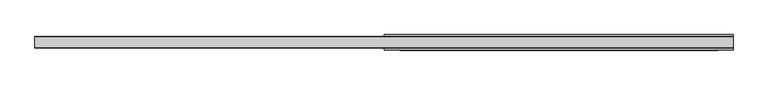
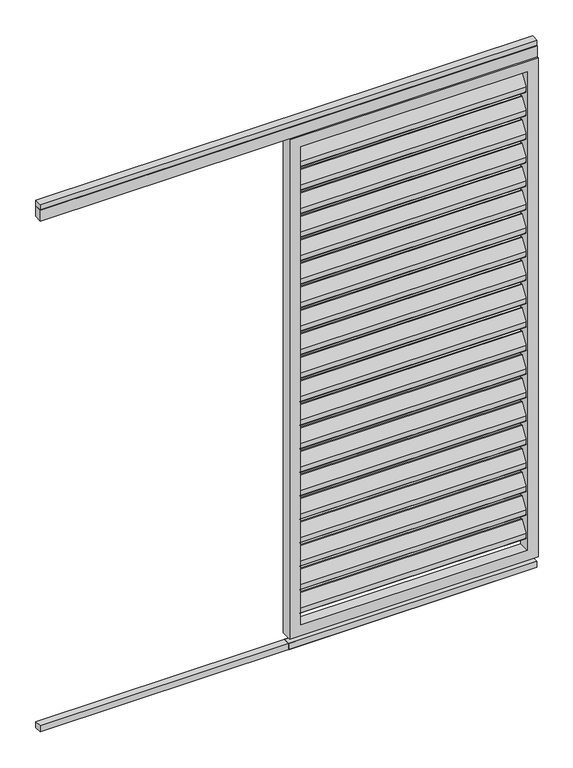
"""IFC4 building model written with IfcOpenShell, lengths in millimetres: proxy geometry, Renson_Algarve_Loggia_Paro_Aluminium : Renson_Algarve_Loggia_Paro_Aluminium."""

from ifc_helpers import new_model, si_unit, point, frame, frame_2d, origin, origin_with_axes, place, context, project, spatial, polyline, circle_curve, trimmed, segment, composite_curve, outline, extrude, source, transform, mapped, element, save


def generic_models_e63a34c5(model_context):
    return source(origin(), model_context, "Body", "SweptSolid", [
        extrude(outline(composite_curve([segment(trimmed(circle_curve(frame_2d((12.6675921, 1892.6587719)), 3.0), [point((10.1515804, 1894.292689))], [point((15.6675921, 1892.6587719))], False, "CARTESIAN"), True, "CONTINUOUS"), segment(polyline([(15.6675921, 1892.6587719), (15.6675921, 1874.2979873)]), True, "CONTINUOUS"), segment(trimmed(circle_curve(frame_2d((12.6675921, 1874.2979873)), 3.0), [point((15.6675921, 1874.2979873))], [point((15.1836038, 1872.6640702))], False, "CARTESIAN"), True, "CONTINUOUS"), segment(polyline([(15.1836038, 1872.6640702), (-8.8163962, 1835.707311)]), True, "CONTINUOUS"), segment(trimmed(circle_curve(frame_2d((-11.3324079, 1837.3412281)), 3.0), [point((-8.8163962, 1835.707311))], [point((-14.3324079, 1837.3412281))], False, "CARTESIAN"), True, "CONTINUOUS"), segment(polyline([(-14.3324079, 1837.3412281), (-14.3324079, 1856.5906532), (10.1515804, 1894.292689)]), True, "CONTINUOUS")], self_intersect=False)), frame((-410.0, 0.0, 0.0), z_axis=(1.0, 0.0, 0.0), x_axis=(0.0, 1.0, 0.0)), (0.0, 0.0, 1.0), 820.0),
        extrude(outline(composite_curve([segment(trimmed(circle_curve(frame_2d((12.6675921, 1802.6587719)), 3.0), [point((10.1515804, 1804.292689))], [point((15.6675921, 1802.6587719))], False, "CARTESIAN"), True, "CONTINUOUS"), segment(polyline([(15.6675921, 1802.6587719), (15.6675921, 1784.2979873)]), True, "CONTINUOUS"), segment(trimmed(circle_curve(frame_2d((12.6675921, 1784.2979873)), 3.0), [point((15.6675921, 1784.2979873))], [point((15.1836038, 1782.6640702))], False, "CARTESIAN"), True, "CONTINUOUS"), segment(polyline([(15.1836038, 1782.6640702), (-8.8163962, 1745.707311)]), True, "CONTINUOUS"), segment(trimmed(circle_curve(frame_2d((-11.3324079, 1747.3412281)), 3.0), [point((-8.8163962, 1745.707311))], [point((-14.3324079, 1747.3412281))], False, "CARTESIAN"), True, "CONTINUOUS"), segment(polyline([(-14.3324079, 1747.3412281), (-14.3324079, 1766.5906532), (10.1515804, 1804.292689)]), True, "CONTINUOUS")], self_intersect=False)), frame((-410.0, 0.0, 0.0), z_axis=(1.0, 0.0, 0.0), x_axis=(0.0, 1.0, 0.0)), (0.0, 0.0, 1.0), 820.0),
        extrude(outline(composite_curve([segment(trimmed(circle_curve(frame_2d((12.6675921, 1712.6587719)), 3.0), [point((10.1515804, 1714.292689))], [point((15.6675921, 1712.6587719))], False, "CARTESIAN"), True, "CONTINUOUS"), segment(polyline([(15.6675921, 1712.6587719), (15.6675921, 1694.2979873)]), True, "CONTINUOUS"), segment(trimmed(circle_curve(frame_2d((12.6675921, 1694.2979873)), 3.0), [point((15.6675921, 1694.2979873))], [point((15.1836038, 1692.6640702))], False, "CARTESIAN"), True, "CONTINUOUS"), segment(polyline([(15.1836038, 1692.6640702), (-8.8163962, 1655.707311)]), True, "CONTINUOUS"), segment(trimmed(circle_curve(frame_2d((-11.3324079, 1657.3412281)), 3.0), [point((-8.8163962, 1655.707311))], [point((-14.3324079, 1657.3412281))], False, "CARTESIAN"), True, "CONTINUOUS"), segment(polyline([(-14.3324079, 1657.3412281), (-14.3324079, 1676.5906532), (10.1515804, 1714.292689)]), True, "CONTINUOUS")], self_intersect=False)), frame((-410.0, 0.0, 0.0), z_axis=(1.0, 0.0, 0.0), x_axis=(0.0, 1.0, 0.0)), (0.0, 0.0, 1.0), 820.0),
        extrude(outline(composite_curve([segment(trimmed(circle_curve(frame_2d((12.6675921, 1622.6587719)), 3.0), [point((10.1515804, 1624.292689))], [point((15.6675921, 1622.6587719))], False, "CARTESIAN"), True, "CONTINUOUS"), segment(polyline([(15.6675921, 1622.6587719), (15.6675921, 1604.2979873)]), True, "CONTINUOUS"), segment(trimmed(circle_curve(frame_2d((12.6675921, 1604.2979873)), 3.0), [point((15.6675921, 1604.2979873))], [point((15.1836038, 1602.6640702))], False, "CARTESIAN"), True, "CONTINUOUS"), segment(polyline([(15.1836038, 1602.6640702), (-8.8163962, 1565.707311)]), True, "CONTINUOUS"), segment(trimmed(circle_curve(frame_2d((-11.3324079, 1567.3412281)), 3.0), [point((-8.8163962, 1565.707311))], [point((-14.3324079, 1567.3412281))], False, "CARTESIAN"), True, "CONTINUOUS"), segment(polyline([(-14.3324079, 1567.3412281), (-14.3324079, 1586.5906532), (10.1515804, 1624.292689)]), True, "CONTINUOUS")], self_intersect=False)), frame((-410.0, 0.0, 0.0), z_axis=(1.0, 0.0, 0.0), x_axis=(0.0, 1.0, 0.0)), (0.0, 0.0, 1.0), 820.0),
        extrude(outline(composite_curve([segment(trimmed(circle_curve(frame_2d((12.6675921, 1532.6587719)), 3.0), [point((10.1515804, 1534.292689))], [point((15.6675921, 1532.6587719))], False, "CARTESIAN"), True, "CONTINUOUS"), segment(polyline([(15.6675921, 1532.6587719), (15.6675921, 1514.2979873)]), True, "CONTINUOUS"), segment(trimmed(circle_curve(frame_2d((12.6675921, 1514.2979873)), 3.0), [point((15.6675921, 1514.2979873))], [point((15.1836038, 1512.6640702))], False, "CARTESIAN"), True, "CONTINUOUS"), segment(polyline([(15.1836038, 1512.6640702), (-8.8163962, 1475.707311)]), True, "CONTINUOUS"), segment(trimmed(circle_curve(frame_2d((-11.3324079, 1477.3412281)), 3.0), [point((-8.8163962, 1475.707311))], [point((-14.3324079, 1477.3412281))], False, "CARTESIAN"), True, "CONTINUOUS"), segment(polyline([(-14.3324079, 1477.3412281), (-14.3324079, 1496.5906532), (10.1515804, 1534.292689)]), True, "CONTINUOUS")], self_intersect=False)), frame((-410.0, 0.0, 0.0), z_axis=(1.0, 0.0, 0.0), x_axis=(0.0, 1.0, 0.0)), (0.0, 0.0, 1.0), 820.0),
        extrude(outline(composite_curve([segment(trimmed(circle_curve(frame_2d((12.6675921, 1442.6587719)), 3.0), [point((10.1515804, 1444.292689))], [point((15.6675921, 1442.6587719))], False, "CARTESIAN"), True, "CONTINUOUS"), segment(polyline([(15.6675921, 1442.6587719), (15.6675921, 1424.2979873)]), True, "CONTINUOUS"), segment(trimmed(circle_curve(frame_2d((12.6675921, 1424.2979873)), 3.0), [point((15.6675921, 1424.2979873))], [point((15.1836038, 1422.6640702))], False, "CARTESIAN"), True, "CONTINUOUS"), segment(polyline([(15.1836038, 1422.6640702), (-8.8163962, 1385.707311)]), True, "CONTINUOUS"), segment(trimmed(circle_curve(frame_2d((-11.3324079, 1387.3412281)), 3.0), [point((-8.8163962, 1385.707311))], [point((-14.3324079, 1387.3412281))], False, "CARTESIAN"), True, "CONTINUOUS"), segment(polyline([(-14.3324079, 1387.3412281), (-14.3324079, 1406.5906532), (10.1515804, 1444.292689)]), True, "CONTINUOUS")], self_intersect=False)), frame((-410.0, 0.0, 0.0), z_axis=(1.0, 0.0, 0.0), x_axis=(0.0, 1.0, 0.0)), (0.0, 0.0, 1.0), 820.0),
        extrude(outline(composite_curve([segment(trimmed(circle_curve(frame_2d((12.6675921, 1352.6587719)), 3.0), [point((10.1515804, 1354.292689))], [point((15.6675921, 1352.6587719))], False, "CARTESIAN"), True, "CONTINUOUS"), segment(polyline([(15.6675921, 1352.6587719), (15.6675921, 1334.2979873)]), True, "CONTINUOUS"), segment(trimmed(circle_curve(frame_2d((12.6675921, 1334.2979873)), 3.0), [point((15.6675921, 1334.2979873))], [point((15.1836038, 1332.6640702))], False, "CARTESIAN"), True, "CONTINUOUS"), segment(polyline([(15.1836038, 1332.6640702), (-8.8163962, 1295.707311)]), True, "CONTINUOUS"), segment(trimmed(circle_curve(frame_2d((-11.3324079, 1297.3412281)), 3.0), [point((-8.8163962, 1295.707311))], [point((-14.3324079, 1297.3412281))], False, "CARTESIAN"), True, "CONTINUOUS"), segment(polyline([(-14.3324079, 1297.3412281), (-14.3324079, 1316.5906532), (10.1515804, 1354.292689)]), True, "CONTINUOUS")], self_intersect=False)), frame((-410.0, 0.0, 0.0), z_axis=(1.0, 0.0, 0.0), x_axis=(0.0, 1.0, 0.0)), (0.0, 0.0, 1.0), 820.0),
        extrude(outline(composite_curve([segment(trimmed(circle_curve(frame_2d((12.6675921, 1262.6587719)), 3.0), [point((10.1515804, 1264.292689))], [point((15.6675921, 1262.6587719))], False, "CARTESIAN"), True, "CONTINUOUS"), segment(polyline([(15.6675921, 1262.6587719), (15.6675921, 1244.2979873)]), True, "CONTINUOUS"), segment(trimmed(circle_curve(frame_2d((12.6675921, 1244.2979873)), 3.0), [point((15.6675921, 1244.2979873))], [point((15.1836038, 1242.6640702))], False, "CARTESIAN"), True, "CONTINUOUS"), segment(polyline([(15.1836038, 1242.6640702), (-8.8163962, 1205.707311)]), True, "CONTINUOUS"), segment(trimmed(circle_curve(frame_2d((-11.3324079, 1207.3412281)), 3.0), [point((-8.8163962, 1205.707311))], [point((-14.3324079, 1207.3412281))], False, "CARTESIAN"), True, "CONTINUOUS"), segment(polyline([(-14.3324079, 1207.3412281), (-14.3324079, 1226.5906532), (10.1515804, 1264.292689)]), True, "CONTINUOUS")], self_intersect=False)), frame((-410.0, 0.0, 0.0), z_axis=(1.0, 0.0, 0.0), x_axis=(0.0, 1.0, 0.0)), (0.0, 0.0, 1.0), 820.0),
        extrude(outline(composite_curve([segment(trimmed(circle_curve(frame_2d((12.6675921, 1172.6587719)), 3.0), [point((10.1515804, 1174.292689))], [point((15.6675921, 1172.6587719))], False, "CARTESIAN"), True, "CONTINUOUS"), segment(polyline([(15.6675921, 1172.6587719), (15.6675921, 1154.2979873)]), True, "CONTINUOUS"), segment(trimmed(circle_curve(frame_2d((12.6675921, 1154.2979873)), 3.0), [point((15.6675921, 1154.2979873))], [point((15.1836038, 1152.6640702))], False, "CARTESIAN"), True, "CONTINUOUS"), segment(polyline([(15.1836038, 1152.6640702), (-8.8163962, 1115.707311)]), True, "CONTINUOUS"), segment(trimmed(circle_curve(frame_2d((-11.3324079, 1117.3412281)), 3.0), [point((-8.8163962, 1115.707311))], [point((-14.3324079, 1117.3412281))], False, "CARTESIAN"), True, "CONTINUOUS"), segment(polyline([(-14.3324079, 1117.3412281), (-14.3324079, 1136.5906532), (10.1515804, 1174.292689)]), True, "CONTINUOUS")], self_intersect=False)), frame((-410.0, 0.0, 0.0), z_axis=(1.0, 0.0, 0.0), x_axis=(0.0, 1.0, 0.0)), (0.0, 0.0, 1.0), 820.0),
        extrude(outline(composite_curve([segment(trimmed(circle_curve(frame_2d((12.6675921, 1082.6587719)), 3.0), [point((10.1515804, 1084.292689))], [point((15.6675921, 1082.6587719))], False, "CARTESIAN"), True, "CONTINUOUS"), segment(polyline([(15.6675921, 1082.6587719), (15.6675921, 1064.2979873)]), True, "CONTINUOUS"), segment(trimmed(circle_curve(frame_2d((12.6675921, 1064.2979873)), 3.0), [point((15.6675921, 1064.2979873))], [point((15.1836038, 1062.6640702))], False, "CARTESIAN"), True, "CONTINUOUS"), segment(polyline([(15.1836038, 1062.6640702), (-8.8163962, 1025.707311)]), True, "CONTINUOUS"), segment(trimmed(circle_curve(frame_2d((-11.3324079, 1027.3412281)), 3.0), [point((-8.8163962, 1025.707311))], [point((-14.3324079, 1027.3412281))], False, "CARTESIAN"), True, "CONTINUOUS"), segment(polyline([(-14.3324079, 1027.3412281), (-14.3324079, 1046.5906532), (10.1515804, 1084.292689)]), True, "CONTINUOUS")], self_intersect=False)), frame((-410.0, 0.0, 0.0), z_axis=(1.0, 0.0, 0.0), x_axis=(0.0, 1.0, 0.0)), (0.0, 0.0, 1.0), 820.0),
        extrude(outline(composite_curve([segment(trimmed(circle_curve(frame_2d((12.6675921, 992.6587719)), 3.0), [point((10.1515804, 994.292689))], [point((15.6675921, 992.6587719))], False, "CARTESIAN"), True, "CONTINUOUS"), segment(polyline([(15.6675921, 992.6587719), (15.6675921, 974.2979873)]), True, "CONTINUOUS"), segment(trimmed(circle_curve(frame_2d((12.6675921, 974.2979873)), 3.0), [point((15.6675921, 974.2979873))], [point((15.1836038, 972.6640702))], False, "CARTESIAN"), True, "CONTINUOUS"), segment(polyline([(15.1836038, 972.6640702), (-8.8163962, 935.707311)]), True, "CONTINUOUS"), segment(trimmed(circle_curve(frame_2d((-11.3324079, 937.3412281)), 3.0), [point((-8.8163962, 935.707311))], [point((-14.3324079, 937.3412281))], False, "CARTESIAN"), True, "CONTINUOUS"), segment(polyline([(-14.3324079, 937.3412281), (-14.3324079, 956.5906532), (10.1515804, 994.292689)]), True, "CONTINUOUS")], self_intersect=False)), frame((-410.0, 0.0, 0.0), z_axis=(1.0, 0.0, 0.0), x_axis=(0.0, 1.0, 0.0)), (0.0, 0.0, 1.0), 820.0),
        extrude(outline(composite_curve([segment(trimmed(circle_curve(frame_2d((12.6675921, 902.6587719)), 3.0), [point((10.1515804, 904.292689))], [point((15.6675921, 902.6587719))], False, "CARTESIAN"), True, "CONTINUOUS"), segment(polyline([(15.6675921, 902.6587719), (15.6675921, 884.2979873)]), True, "CONTINUOUS"), segment(trimmed(circle_curve(frame_2d((12.6675921, 884.2979873)), 3.0), [point((15.6675921, 884.2979873))], [point((15.1836038, 882.6640702))], False, "CARTESIAN"), True, "CONTINUOUS"), segment(polyline([(15.1836038, 882.6640702), (-8.8163962, 845.707311)]), True, "CONTINUOUS"), segment(trimmed(circle_curve(frame_2d((-11.3324079, 847.3412281)), 3.0), [point((-8.8163962, 845.707311))], [point((-14.3324079, 847.3412281))], False, "CARTESIAN"), True, "CONTINUOUS"), segment(polyline([(-14.3324079, 847.3412281), (-14.3324079, 866.5906532), (10.1515804, 904.292689)]), True, "CONTINUOUS")], self_intersect=False)), frame((-410.0, 0.0, 0.0), z_axis=(1.0, 0.0, 0.0), x_axis=(0.0, 1.0, 0.0)), (0.0, 0.0, 1.0), 820.0),
        extrude(outline(composite_curve([segment(trimmed(circle_curve(frame_2d((12.6675921, 812.6587719)), 3.0), [point((10.1515804, 814.292689))], [point((15.6675921, 812.6587719))], False, "CARTESIAN"), True, "CONTINUOUS"), segment(polyline([(15.6675921, 812.6587719), (15.6675921, 794.2979873)]), True, "CONTINUOUS"), segment(trimmed(circle_curve(frame_2d((12.6675921, 794.2979873)), 3.0), [point((15.6675921, 794.2979873))], [point((15.1836038, 792.6640702))], False, "CARTESIAN"), True, "CONTINUOUS"), segment(polyline([(15.1836038, 792.6640702), (-8.8163962, 755.707311)]), True, "CONTINUOUS"), segment(trimmed(circle_curve(frame_2d((-11.3324079, 757.3412281)), 3.0), [point((-8.8163962, 755.707311))], [point((-14.3324079, 757.3412281))], False, "CARTESIAN"), True, "CONTINUOUS"), segment(polyline([(-14.3324079, 757.3412281), (-14.3324079, 776.5906532), (10.1515804, 814.292689)]), True, "CONTINUOUS")], self_intersect=False)), frame((-410.0, 0.0, 0.0), z_axis=(1.0, 0.0, 0.0), x_axis=(0.0, 1.0, 0.0)), (0.0, 0.0, 1.0), 820.0),
        extrude(outline(composite_curve([segment(trimmed(circle_curve(frame_2d((12.6675921, 722.6587719)), 3.0), [point((10.1515804, 724.292689))], [point((15.6675921, 722.6587719))], False, "CARTESIAN"), True, "CONTINUOUS"), segment(polyline([(15.6675921, 722.6587719), (15.6675921, 704.2979873)]), True, "CONTINUOUS"), segment(trimmed(circle_curve(frame_2d((12.6675921, 704.2979873)), 3.0), [point((15.6675921, 704.2979873))], [point((15.1836038, 702.6640702))], False, "CARTESIAN"), True, "CONTINUOUS"), segment(polyline([(15.1836038, 702.6640702), (-8.8163962, 665.707311)]), True, "CONTINUOUS"), segment(trimmed(circle_curve(frame_2d((-11.3324079, 667.3412281)), 3.0), [point((-8.8163962, 665.707311))], [point((-14.3324079, 667.3412281))], False, "CARTESIAN"), True, "CONTINUOUS"), segment(polyline([(-14.3324079, 667.3412281), (-14.3324079, 686.5906532), (10.1515804, 724.292689)]), True, "CONTINUOUS")], self_intersect=False)), frame((-410.0, 0.0, 0.0), z_axis=(1.0, 0.0, 0.0), x_axis=(0.0, 1.0, 0.0)), (0.0, 0.0, 1.0), 820.0),
        extrude(outline(composite_curve([segment(trimmed(circle_curve(frame_2d((12.6675921, 632.6587719)), 3.0), [point((10.1515804, 634.292689))], [point((15.6675921, 632.6587719))], False, "CARTESIAN"), True, "CONTINUOUS"), segment(polyline([(15.6675921, 632.6587719), (15.6675921, 614.2979873)]), True, "CONTINUOUS"), segment(trimmed(circle_curve(frame_2d((12.6675921, 614.2979873)), 3.0), [point((15.6675921, 614.2979873))], [point((15.1836038, 612.6640702))], False, "CARTESIAN"), True, "CONTINUOUS"), segment(polyline([(15.1836038, 612.6640702), (-8.8163962, 575.707311)]), True, "CONTINUOUS"), segment(trimmed(circle_curve(frame_2d((-11.3324079, 577.3412281)), 3.0), [point((-8.8163962, 575.707311))], [point((-14.3324079, 577.3412281))], False, "CARTESIAN"), True, "CONTINUOUS"), segment(polyline([(-14.3324079, 577.3412281), (-14.3324079, 596.5906532), (10.1515804, 634.292689)]), True, "CONTINUOUS")], self_intersect=False)), frame((-410.0, 0.0, 0.0), z_axis=(1.0, 0.0, 0.0), x_axis=(0.0, 1.0, 0.0)), (0.0, 0.0, 1.0), 820.0),
        extrude(outline(composite_curve([segment(trimmed(circle_curve(frame_2d((12.6675921, 542.6587719)), 3.0), [point((10.1515804, 544.292689))], [point((15.6675921, 542.6587719))], False, "CARTESIAN"), True, "CONTINUOUS"), segment(polyline([(15.6675921, 542.6587719), (15.6675921, 524.2979873)]), True, "CONTINUOUS"), segment(trimmed(circle_curve(frame_2d((12.6675921, 524.2979873)), 3.0), [point((15.6675921, 524.2979873))], [point((15.1836038, 522.6640702))], False, "CARTESIAN"), True, "CONTINUOUS"), segment(polyline([(15.1836038, 522.6640702), (-8.8163962, 485.707311)]), True, "CONTINUOUS"), segment(trimmed(circle_curve(frame_2d((-11.3324079, 487.3412281)), 3.0), [point((-8.8163962, 485.707311))], [point((-14.3324079, 487.3412281))], False, "CARTESIAN"), True, "CONTINUOUS"), segment(polyline([(-14.3324079, 487.3412281), (-14.3324079, 506.5906532), (10.1515804, 544.292689)]), True, "CONTINUOUS")], self_intersect=False)), frame((-410.0, 0.0, 0.0), z_axis=(1.0, 0.0, 0.0), x_axis=(0.0, 1.0, 0.0)), (0.0, 0.0, 1.0), 820.0),
        extrude(outline(composite_curve([segment(trimmed(circle_curve(frame_2d((12.6675921, 452.6587719)), 3.0), [point((10.1515804, 454.292689))], [point((15.6675921, 452.6587719))], False, "CARTESIAN"), True, "CONTINUOUS"), segment(polyline([(15.6675921, 452.6587719), (15.6675921, 434.2979873)]), True, "CONTINUOUS"), segment(trimmed(circle_curve(frame_2d((12.6675921, 434.2979873)), 3.0), [point((15.6675921, 434.2979873))], [point((15.1836038, 432.6640702))], False, "CARTESIAN"), True, "CONTINUOUS"), segment(polyline([(15.1836038, 432.6640702), (-8.8163962, 395.707311)]), True, "CONTINUOUS"), segment(trimmed(circle_curve(frame_2d((-11.3324079, 397.3412281)), 3.0), [point((-8.8163962, 395.707311))], [point((-14.3324079, 397.3412281))], False, "CARTESIAN"), True, "CONTINUOUS"), segment(polyline([(-14.3324079, 397.3412281), (-14.3324079, 416.5906532), (10.1515804, 454.292689)]), True, "CONTINUOUS")], self_intersect=False)), frame((-410.0, 0.0, 0.0), z_axis=(1.0, 0.0, 0.0), x_axis=(0.0, 1.0, 0.0)), (0.0, 0.0, 1.0), 820.0),
        extrude(outline(composite_curve([segment(trimmed(circle_curve(frame_2d((12.6675921, 362.6587719)), 3.0), [point((10.1515804, 364.292689))], [point((15.6675921, 362.6587719))], False, "CARTESIAN"), True, "CONTINUOUS"), segment(polyline([(15.6675921, 362.6587719), (15.6675921, 344.2979873)]), True, "CONTINUOUS"), segment(trimmed(circle_curve(frame_2d((12.6675921, 344.2979873)), 3.0), [point((15.6675921, 344.2979873))], [point((15.1836038, 342.6640702))], False, "CARTESIAN"), True, "CONTINUOUS"), segment(polyline([(15.1836038, 342.6640702), (-8.8163962, 305.707311)]), True, "CONTINUOUS"), segment(trimmed(circle_curve(frame_2d((-11.3324079, 307.3412281)), 3.0), [point((-8.8163962, 305.707311))], [point((-14.3324079, 307.3412281))], False, "CARTESIAN"), True, "CONTINUOUS"), segment(polyline([(-14.3324079, 307.3412281), (-14.3324079, 326.5906532), (10.1515804, 364.292689)]), True, "CONTINUOUS")], self_intersect=False)), frame((-410.0, 0.0, 0.0), z_axis=(1.0, 0.0, 0.0), x_axis=(0.0, 1.0, 0.0)), (0.0, 0.0, 1.0), 820.0),
        extrude(outline(composite_curve([segment(trimmed(circle_curve(frame_2d((12.6675921, 272.6587719)), 3.0), [point((10.1515804, 274.292689))], [point((15.6675921, 272.6587719))], False, "CARTESIAN"), True, "CONTINUOUS"), segment(polyline([(15.6675921, 272.6587719), (15.6675921, 254.2979873)]), True, "CONTINUOUS"), segment(trimmed(circle_curve(frame_2d((12.6675921, 254.2979873)), 3.0), [point((15.6675921, 254.2979873))], [point((15.1836038, 252.6640702))], False, "CARTESIAN"), True, "CONTINUOUS"), segment(polyline([(15.1836038, 252.6640702), (-8.8163962, 215.707311)]), True, "CONTINUOUS"), segment(trimmed(circle_curve(frame_2d((-11.3324079, 217.3412281)), 3.0), [point((-8.8163962, 215.707311))], [point((-14.3324079, 217.3412281))], False, "CARTESIAN"), True, "CONTINUOUS"), segment(polyline([(-14.3324079, 217.3412281), (-14.3324079, 236.5906532), (10.1515804, 274.292689)]), True, "CONTINUOUS")], self_intersect=False)), frame((-410.0, 0.0, 0.0), z_axis=(1.0, 0.0, 0.0), x_axis=(0.0, 1.0, 0.0)), (0.0, 0.0, 1.0), 820.0),
        extrude(outline(composite_curve([segment(trimmed(circle_curve(frame_2d((12.6675921, 182.6587719)), 3.0), [point((10.1515804, 184.292689))], [point((15.6675921, 182.6587719))], False, "CARTESIAN"), True, "CONTINUOUS"), segment(polyline([(15.6675921, 182.6587719), (15.6675921, 164.2979873)]), True, "CONTINUOUS"), segment(trimmed(circle_curve(frame_2d((12.6675921, 164.2979873)), 3.0), [point((15.6675921, 164.2979873))], [point((15.1836038, 162.6640702))], False, "CARTESIAN"), True, "CONTINUOUS"), segment(polyline([(15.1836038, 162.6640702), (-8.8163962, 125.707311)]), True, "CONTINUOUS"), segment(trimmed(circle_curve(frame_2d((-11.3324079, 127.3412281)), 3.0), [point((-8.8163962, 125.707311))], [point((-14.3324079, 127.3412281))], False, "CARTESIAN"), True, "CONTINUOUS"), segment(polyline([(-14.3324079, 127.3412281), (-14.3324079, 146.5906532), (10.1515804, 184.292689)]), True, "CONTINUOUS")], self_intersect=False)), frame((-410.0, 0.0, 0.0), z_axis=(1.0, 0.0, 0.0), x_axis=(0.0, 1.0, 0.0)), (0.0, 0.0, 1.0), 820.0),
        extrude(outline(polyline([(450.0, -13.0), (-1350.0, -13.0), (-1350.0, 14.0), (450.0, 14.0), (450.0, -13.0)])), frame((0.0, 0.0, 2000.0), z_axis=(0.0, 0.0, 1.0), x_axis=(1.0, 0.0, 0.0)), (0.0, 0.0, 1.0), 20.0),
        extrude(outline(polyline([(450.0, 15.0), (450.0, -15.0), (-1350.0, -15.0), (-1350.0, 15.0), (450.0, 15.0)])), frame((0.0, 0.0, 1957.7138321), z_axis=(0.0, 0.0, 1.0), x_axis=(1.0, 0.0, 0.0)), (0.0, 0.0, 1.0), 42.2861679),
        extrude(outline(polyline([(450.0, 15.0), (450.0, -15.0), (-450.0, -15.0), (-450.0, 15.0), (450.0, 15.0)])), frame((0.0, 0.0, 1957.7138321), z_axis=(0.0, 0.0, 1.0), x_axis=(1.0, 0.0, 0.0)), (0.0, 0.0, 1.0), 42.2861679),
        extrude(outline(polyline([(450.0, -13.0), (-1350.0, -13.0), (-1350.0, 14.0), (450.0, 14.0), (450.0, -13.0)])), origin_with_axes(), (0.0, 0.0, 1.0), 23.0),
        extrude(outline(polyline([(450.0, -13.0), (-450.0, -13.0), (-450.0, 14.0), (450.0, 14.0), (450.0, -13.0)])), origin_with_axes(), (0.0, 0.0, 1.0), 23.0),
        extrude(outline(polyline([(1957.7138321, -450.0), (45.0, -450.0), (45.0, 450.0), (1957.7138321, 450.0), (1957.7138321, -450.0)]), holes=[polyline([(1917.7138321, 410.0), (85.0, 410.0), (85.0, -410.0), (1917.7138321, -410.0), (1917.7138321, 410.0)])]), frame((0.0, -20.0, 0.0), z_axis=(0.0, 1.0, 0.0), x_axis=(0.0, 0.0, 1.0)), (0.0, 0.0, 1.0), 40.0),
    ])


if __name__ == "__main__":
    model = new_model("IFC4")
    model_context = context("Model", 3, world=origin())
    ifc_project = project(units=[si_unit("LENGTHUNIT", "METRE", prefix="MILLI")], contexts=[model_context])
    site = spatial("IfcSite", under=ifc_project)
    building = spatial("IfcBuilding", under=site)
    placement = place(None, origin())
    generic_models_shape = generic_models_e63a34c5(model_context)
    element("IfcBuildingElementProxy", 1, Name="Renson_Algarve_Loggia_Paro_Aluminium : Renson_Algarve_Loggia_Paro_Aluminium", ObjectType="Renson_Algarve_Loggia_Paro_Aluminium : Renson_Algarve_Loggia_Paro_Aluminium", at=placement, inside=building, context=model_context, shape_type="MappedRepresentation", body=[
        mapped(generic_models_shape, transform((0.0, 0.0, 0.0), x_axis=(1.0, 0.0, 0.0), y_axis=(0.0, 1.0, 0.0), z_axis=(0.0, 0.0, 1.0))),
    ])
    save(model, "model.ifc")
